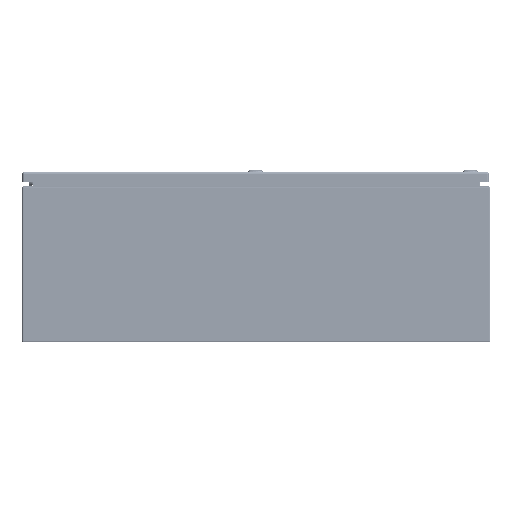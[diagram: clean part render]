
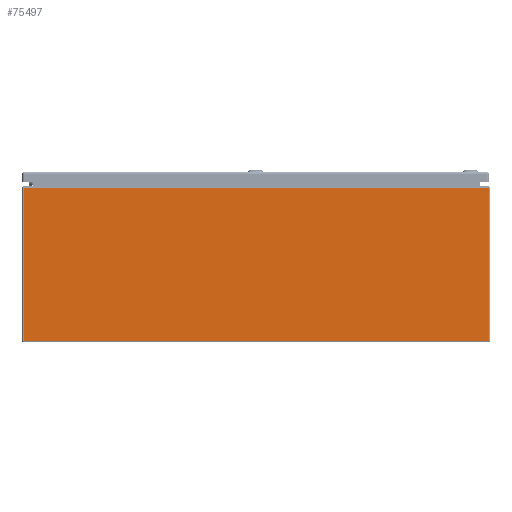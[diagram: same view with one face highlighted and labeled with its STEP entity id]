
A CAD part, front view. The second image highlights one B-rep face of the part: STEP entity #75497.
In plain terms, the highlighted planar face has unit normal (0, -1, 0).
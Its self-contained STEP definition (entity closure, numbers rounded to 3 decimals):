
#6768=LINE('',#106715,#11870);
#6771=LINE('',#106737,#11873);
#6772=LINE('',#106739,#11874);
#6773=LINE('',#106740,#11875);
#11870=VECTOR('',#87998,0.394);
#11873=VECTOR('',#88029,0.394);
#11874=VECTOR('',#88030,0.394);
#11875=VECTOR('',#88031,0.394);
#18182=FACE_OUTER_BOUND('',#22847,.T.);
#22847=EDGE_LOOP('',(#50333,#50334,#50335,#50336));
#30663=VERTEX_POINT('',#106704);
#30666=VERTEX_POINT('',#106714);
#30671=VERTEX_POINT('',#106736);
#30672=VERTEX_POINT('',#106738);
#38247=EDGE_CURVE('',#30663,#30666,#6768,.T.);
#38258=EDGE_CURVE('',#30671,#30663,#6771,.T.);
#38259=EDGE_CURVE('',#30671,#30672,#6772,.T.);
#38260=EDGE_CURVE('',#30666,#30672,#6773,.T.);
#50333=ORIENTED_EDGE('',*,*,#38247,.F.);
#50334=ORIENTED_EDGE('',*,*,#38258,.F.);
#50335=ORIENTED_EDGE('',*,*,#38259,.T.);
#50336=ORIENTED_EDGE('',*,*,#38260,.F.);
#73785=PLANE('',#81124);
#75497=ADVANCED_FACE('',(#18182),#73785,.T.);
#81124=AXIS2_PLACEMENT_3D('',#106735,#88027,#88028);
#87998=DIRECTION('',(1.,0.,0.));
#88027=DIRECTION('center_axis',(0.,-1.,0.));
#88028=DIRECTION('ref_axis',(-1.,0.,0.));
#88029=DIRECTION('',(0.,0.,1.));
#88030=DIRECTION('',(1.,0.,0.));
#88031=DIRECTION('',(0.,0.,-1.));
#106704=CARTESIAN_POINT('',(-17.901,-18.,11.901));
#106714=CARTESIAN_POINT('',(17.901,-18.,11.901));
#106715=CARTESIAN_POINT('',(0.025,-18.,11.901));
#106735=CARTESIAN_POINT('Origin',(18.,-18.,12.));
#106736=CARTESIAN_POINT('',(-17.901,-18.,0.099));
#106737=CARTESIAN_POINT('',(-17.901,-18.,6.));
#106738=CARTESIAN_POINT('',(17.901,-18.,0.099));
#106739=CARTESIAN_POINT('',(-8.951,-18.,0.099));
#106740=CARTESIAN_POINT('',(17.901,-18.,6.));
